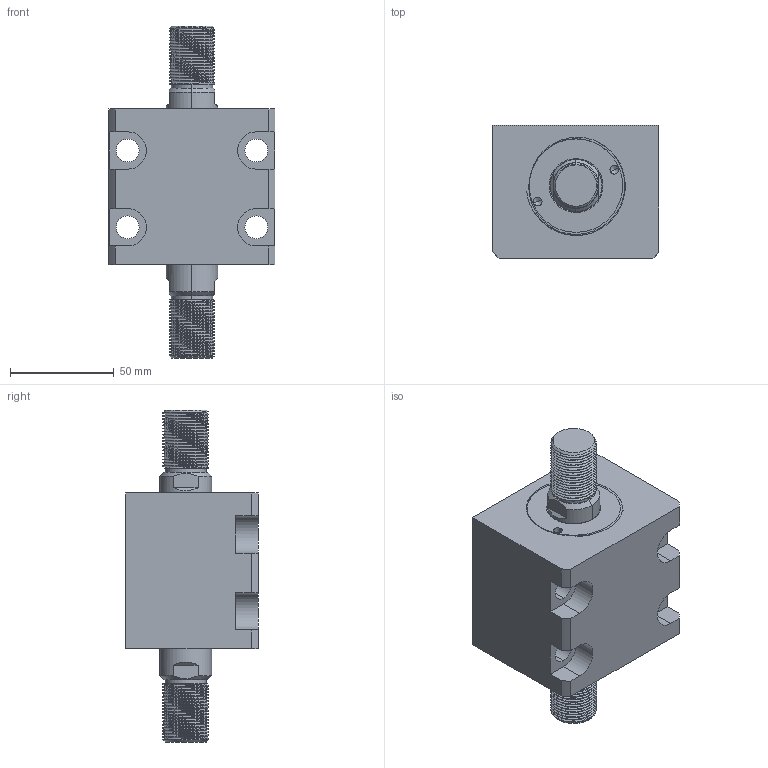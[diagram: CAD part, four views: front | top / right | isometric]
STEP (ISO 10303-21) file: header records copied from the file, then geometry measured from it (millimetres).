
FILE_DESCRIPTION (( 'STEP AP214' ), '1' );
FILE_NAME ('chtb-lwm40x5w_asm.STEP', '2018-05-31T00:29:31', ( 'Windows' ), ( 'Microsoft' ), 'SwSTEP 2.0', 'SolidWorks 2015', '' );
FILE_SCHEMA (( 'AUTOMOTIVE_DESIGN' ));
Length unit declared in the file: millimetre
Products named in the file (4): CHTB-SW40X5NHSG; CHTB-SD40QG; CHTB-LWM40X5NBT; chtb-lwm40x5w_asm
Assembly tree (3 placements, depth 2):
  chtb-lwm40x5w_asm
    CHTB-LWM40X5NBT
    CHTB-SD40QG
    CHTB-SW40X5NHSG
Bounding box: 80 x 64 x 160 mm (x, y, z)
Volume: 377060.4 mm3; surface area: 76019.7 mm2
Topology: 3 solids, 3 shells, 241 faces, 672 edges, 447 vertices
Faces by surface type: cylinder 149, plane 49, bspline 18, cone 13, torus 12
Entity records: 17006 total; most frequent: CARTESIAN_POINT 11203, ORIENTED_EDGE 1332, DIRECTION 1035, EDGE_CURVE 666, VERTEX_POINT 447, AXIS2_PLACEMENT_3D 401, EDGE_LOOP 273, ADVANCED_FACE 241
